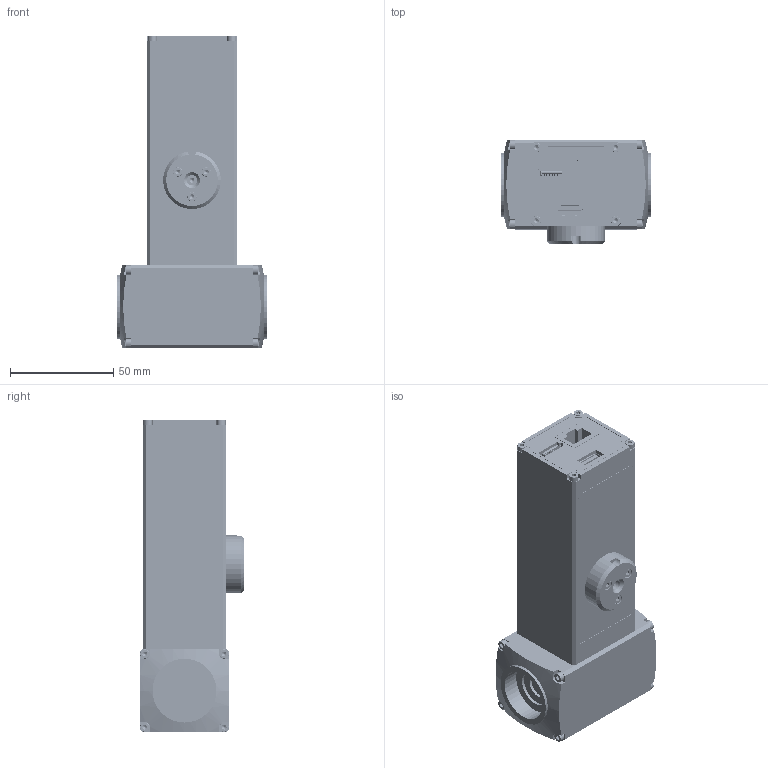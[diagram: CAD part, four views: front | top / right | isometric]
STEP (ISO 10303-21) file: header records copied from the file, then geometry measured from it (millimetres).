
FILE_DESCRIPTION(/* description */ ('VariCAD 2010-2.03 AP-203'),/* implementation_level */ '2;1');
FILE_NAME(/* name */ 'dual-opposite',/* time_stamp */ '2011-01-27T17:12:31-07:00',/* author */ (''),/* organization */ (''),/* preprocessor_version */ 'ST-DEVELOPER v12',/* originating_system */ 'VariCAD 2010-2.03; kernel version (20100102)',/* authorisation */ '');
FILE_SCHEMA (('CONFIG_CONTROL_DESIGN'));
Products named in the file (1): Part
Bounding box: 72.54 x 50.8 x 151.67 mm (x, y, z)
Volume: 142164.3 mm3; surface area: 148496.9 mm2
Topology: 221 solids, 221 shells, 12181 faces, 32305 edges, 20476 vertices
Faces by surface type: plane 8784, cylinder 2334, cone 923, torus 116, sphere 16, bspline 8
Entity records: 377552 total; most frequent: CARTESIAN_POINT 71114, ORIENTED_EDGE 64410, DIRECTION 61466, EDGE_CURVE 32205, LINE 25658, VECTOR 25658, VERTEX_POINT 20476, AXIS2_PLACEMENT_3D 17904
